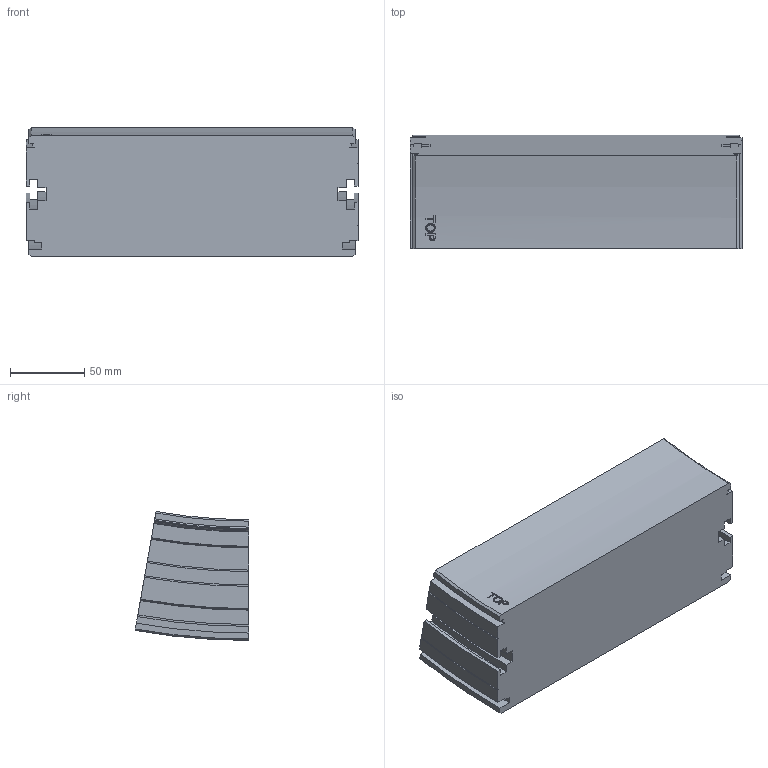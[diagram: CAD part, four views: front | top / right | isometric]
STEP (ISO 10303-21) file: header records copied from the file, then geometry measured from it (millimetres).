
FILE_DESCRIPTION(/* description */ ('VERTIKALKURVA S220 R400'),/* implementation_level */ '2;1');
FILE_NAME(/* name */ '\\carryline.intra\privat\users\mathias\Desktop\Tillfälliga filer\220-5645+220-2000-UPP-01.stp',/* time_stamp */ '2018-11-29T13:32:10+01:00',/* author */ ('MD'),/* organization */ ('CARRYLINE'),/* preprocessor_version */ 'ST-DEVELOPER v17',/* originating_system */ 'Autodesk Inventor 2018',/* authorisation */ '');
FILE_SCHEMA (('AUTOMOTIVE_DESIGN { 1 0 10303 214 3 1 1 }'));
Length unit declared in the file: millimetre
Products named in the file (1): 220-5645+220-2000-UPP-01
Bounding box: 224 x 76.75 x 86.98 mm (x, y, z)
Volume: 1238842.4 mm3; surface area: 88228 mm2
Topology: 1 solids, 1 shells, 113 faces, 318 edges, 212 vertices
Faces by surface type: plane 48, cylinder 31, bspline 14, cone 14, torus 6
Entity records: 8361 total; most frequent: CARTESIAN_POINT 5393, ORIENTED_EDGE 636, DIRECTION 576, EDGE_CURVE 318, VERTEX_POINT 212, AXIS2_PLACEMENT_3D 199, LINE 178, VECTOR 178
